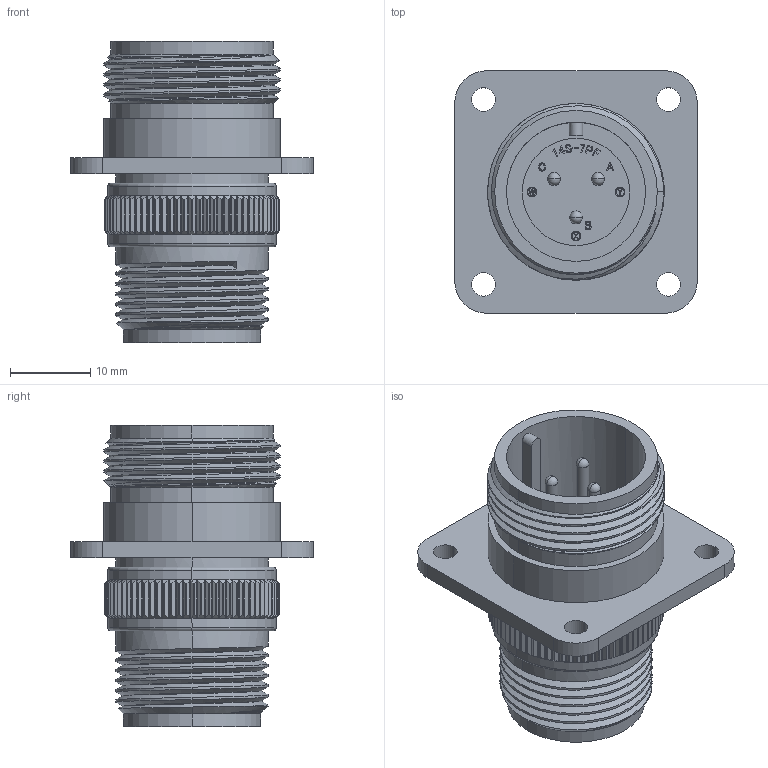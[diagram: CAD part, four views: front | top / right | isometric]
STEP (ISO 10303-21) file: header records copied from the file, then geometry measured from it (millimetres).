
FILE_DESCRIPTION (( 'STEP AP203' ), '1' );
FILE_NAME ('DMS3100A14S-7P.STEP', '2017-07-12T02:31:43', ( '' ), ( '' ), 'SwSTEP 2.0', 'SolidWorks 2015', '' );
FILE_SCHEMA (( 'CONFIG_CONTROL_DESIGN' ));
Products named in the file (1): DMS3100A14S-7P
Bounding box: 30.2 x 30.2 x 37.49 mm (x, y, z)
Volume: 6945.2 mm3; surface area: 7775.1 mm2
Topology: 1 solids, 1 shells, 1101 faces, 3090 edges, 2036 vertices
Faces by surface type: cylinder 481, plane 433, bspline 150, cone 21, torus 10, sphere 6
Entity records: 43940 total; most frequent: CARTESIAN_POINT 18107, ORIENTED_EDGE 6144, DIRECTION 4168, EDGE_CURVE 3072, VERTEX_POINT 2030, VECTOR 1466, LINE 1466, AXIS2_PLACEMENT_3D 1351
